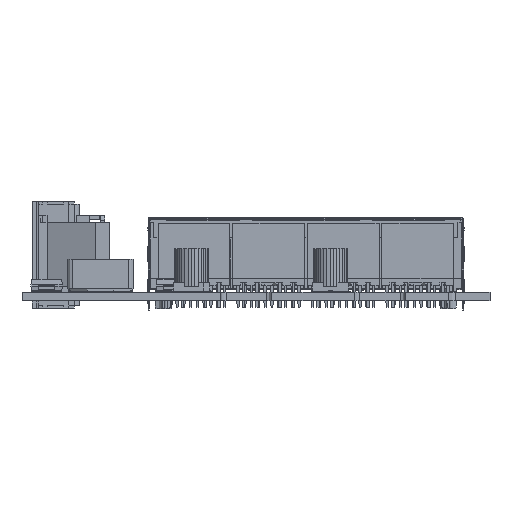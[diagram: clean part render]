
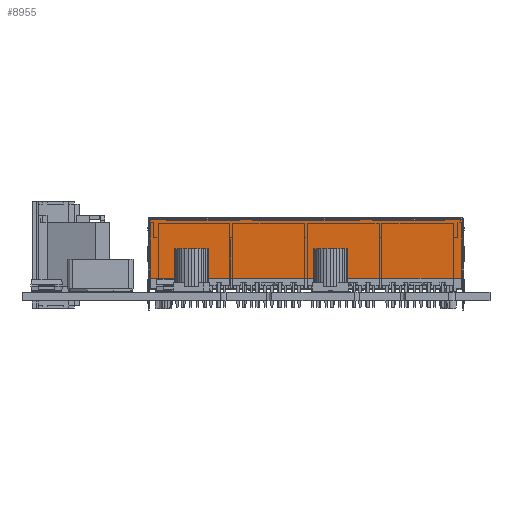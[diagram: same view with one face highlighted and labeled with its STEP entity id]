
A CAD part, front view. The second image highlights one B-rep face of the part: STEP entity #8955.
In plain terms, the highlighted planar face has unit normal (0, -1, 0) as drawn and (0, 0, -1) by its records, which use the part's own axes.
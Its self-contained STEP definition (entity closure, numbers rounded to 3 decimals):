
#8955=ADVANCED_FACE('',(#21985),#21986,.F.);
#21985=FACE_OUTER_BOUND('',#39249,.T.);
#21986=PLANE('',#39250);
#39249=EDGE_LOOP('',(#71189,#71190,#71191,#71192,#71193,#71194,#71195,#71196,#71197,#71198,#71199,#71200,#71201,#71202,#71203,#71204,#71205,#71206,#71207,#71208));
#39250=AXIS2_PLACEMENT_3D('',#71209,#71210,#71211);
#71189=ORIENTED_EDGE('',*,*,#116701,.T.);
#71190=ORIENTED_EDGE('',*,*,#116670,.T.);
#71191=ORIENTED_EDGE('',*,*,#116703,.T.);
#71192=ORIENTED_EDGE('',*,*,#116704,.T.);
#71193=ORIENTED_EDGE('',*,*,#116705,.F.);
#71194=ORIENTED_EDGE('',*,*,#116706,.T.);
#71195=ORIENTED_EDGE('',*,*,#116707,.T.);
#71196=ORIENTED_EDGE('',*,*,#116708,.T.);
#71197=ORIENTED_EDGE('',*,*,#116709,.F.);
#71198=ORIENTED_EDGE('',*,*,#116710,.T.);
#71199=ORIENTED_EDGE('',*,*,#116711,.T.);
#71200=ORIENTED_EDGE('',*,*,#116712,.T.);
#71201=ORIENTED_EDGE('',*,*,#116713,.F.);
#71202=ORIENTED_EDGE('',*,*,#116714,.T.);
#71203=ORIENTED_EDGE('',*,*,#116715,.T.);
#71204=ORIENTED_EDGE('',*,*,#116716,.T.);
#71205=ORIENTED_EDGE('',*,*,#116717,.F.);
#71206=ORIENTED_EDGE('',*,*,#116718,.T.);
#71207=ORIENTED_EDGE('',*,*,#116719,.T.);
#71208=ORIENTED_EDGE('',*,*,#116655,.T.);
#71209=CARTESIAN_POINT('',(0.0,0.875,-12.675));
#71210=DIRECTION('',(0.0,0.0,1.0));
#71211=DIRECTION('',(1.0,-0.0,0.0));
#116655=EDGE_CURVE('',#141800,#141798,#141801,.T.);
#116670=EDGE_CURVE('',#141826,#141824,#141827,.T.);
#116701=EDGE_CURVE('',#141798,#141826,#141874,.T.);
#116703=EDGE_CURVE('',#141824,#141876,#141877,.T.);
#116704=EDGE_CURVE('',#141876,#141878,#141879,.T.);
#116705=EDGE_CURVE('',#141880,#141878,#141881,.T.);
#116706=EDGE_CURVE('',#141880,#141882,#141883,.T.);
#116707=EDGE_CURVE('',#141882,#141884,#141885,.T.);
#116708=EDGE_CURVE('',#141884,#141886,#141887,.T.);
#116709=EDGE_CURVE('',#141888,#141886,#141889,.T.);
#116710=EDGE_CURVE('',#141888,#141890,#141891,.T.);
#116711=EDGE_CURVE('',#141890,#141892,#141893,.T.);
#116712=EDGE_CURVE('',#141892,#141894,#141895,.T.);
#116713=EDGE_CURVE('',#141896,#141894,#141897,.T.);
#116714=EDGE_CURVE('',#141896,#141898,#141899,.T.);
#116715=EDGE_CURVE('',#141898,#141900,#141901,.T.);
#116716=EDGE_CURVE('',#141900,#141902,#141903,.T.);
#116717=EDGE_CURVE('',#141904,#141902,#141905,.T.);
#116718=EDGE_CURVE('',#141904,#141906,#141907,.T.);
#116719=EDGE_CURVE('',#141906,#141800,#141908,.T.);
#141798=VERTEX_POINT('',#178468);
#141800=VERTEX_POINT('',#178470);
#141801=LINE('',#178471,#178472);
#141824=VERTEX_POINT('',#178502);
#141826=VERTEX_POINT('',#178505);
#141827=LINE('',#178506,#178507);
#141874=LINE('',#178567,#178568);
#141876=VERTEX_POINT('',#178570);
#141877=LINE('',#178571,#178572);
#141878=VERTEX_POINT('',#178573);
#141879=LINE('',#178574,#178575);
#141880=VERTEX_POINT('',#178576);
#141881=LINE('',#178577,#178578);
#141882=VERTEX_POINT('',#178579);
#141883=LINE('',#178580,#178581);
#141884=VERTEX_POINT('',#178582);
#141885=LINE('',#178583,#178584);
#141886=VERTEX_POINT('',#178585);
#141887=LINE('',#178586,#178587);
#141888=VERTEX_POINT('',#178588);
#141889=LINE('',#178589,#178590);
#141890=VERTEX_POINT('',#178591);
#141891=LINE('',#178592,#178593);
#141892=VERTEX_POINT('',#178594);
#141893=LINE('',#178595,#178596);
#141894=VERTEX_POINT('',#178597);
#141895=LINE('',#178598,#178599);
#141896=VERTEX_POINT('',#178600);
#141897=LINE('',#178601,#178602);
#141898=VERTEX_POINT('',#178603);
#141899=LINE('',#178604,#178605);
#141900=VERTEX_POINT('',#178606);
#141901=LINE('',#178607,#178608);
#141902=VERTEX_POINT('',#178609);
#141903=LINE('',#178610,#178611);
#141904=VERTEX_POINT('',#178612);
#141905=LINE('',#178613,#178614);
#141906=VERTEX_POINT('',#178615);
#141907=LINE('',#178616,#178617);
#141908=LINE('',#178618,#178619);
#178468=CARTESIAN_POINT('',(-29.265,-4.65,-12.675));
#178470=CARTESIAN_POINT('',(29.265,-4.65,-12.675));
#178471=CARTESIAN_POINT('',(29.265,-4.65,-12.675));
#178472=VECTOR('',#217272,58.53);
#178502=CARTESIAN_POINT('',(-29.065,6.2,-12.675));
#178505=CARTESIAN_POINT('',(-29.265,6.2,-12.675));
#178506=CARTESIAN_POINT('',(-29.265,6.2,-12.675));
#178507=VECTOR('',#217293,0.2);
#178567=CARTESIAN_POINT('',(-29.265,-4.65,-12.675));
#178568=VECTOR('',#217337,10.85);
#178570=CARTESIAN_POINT('',(-29.065,6.4,-12.675));
#178571=CARTESIAN_POINT('',(-29.065,6.2,-12.675));
#178572=VECTOR('',#217338,0.2);
#178573=CARTESIAN_POINT('',(-26.065,6.4,-12.675));
#178574=CARTESIAN_POINT('',(-29.065,6.4,-12.675));
#178575=VECTOR('',#217339,3.0);
#178576=CARTESIAN_POINT('',(-26.065,6.2,-12.675));
#178577=CARTESIAN_POINT('',(-26.065,6.2,-12.675));
#178578=VECTOR('',#217340,0.2);
#178579=CARTESIAN_POINT('',(-12.5,6.2,-12.675));
#178580=CARTESIAN_POINT('',(-26.065,6.2,-12.675));
#178581=VECTOR('',#217341,13.565);
#178582=CARTESIAN_POINT('',(-12.5,6.4,-12.675));
#178583=CARTESIAN_POINT('',(-12.5,6.2,-12.675));
#178584=VECTOR('',#217342,0.2);
#178585=CARTESIAN_POINT('',(-10.0,6.4,-12.675));
#178586=CARTESIAN_POINT('',(-12.5,6.4,-12.675));
#178587=VECTOR('',#217343,2.5);
#178588=CARTESIAN_POINT('',(-10.0,6.2,-12.675));
#178589=CARTESIAN_POINT('',(-10.0,6.2,-12.675));
#178590=VECTOR('',#217344,0.2);
#178591=CARTESIAN_POINT('',(10.0,6.2,-12.675));
#178592=CARTESIAN_POINT('',(-10.0,6.2,-12.675));
#178593=VECTOR('',#217345,20.0);
#178594=CARTESIAN_POINT('',(10.0,6.4,-12.675));
#178595=CARTESIAN_POINT('',(10.0,6.2,-12.675));
#178596=VECTOR('',#217346,0.2);
#178597=CARTESIAN_POINT('',(12.5,6.4,-12.675));
#178598=CARTESIAN_POINT('',(10.0,6.4,-12.675));
#178599=VECTOR('',#217347,2.5);
#178600=CARTESIAN_POINT('',(12.5,6.2,-12.675));
#178601=CARTESIAN_POINT('',(12.5,6.2,-12.675));
#178602=VECTOR('',#217348,0.2);
#178603=CARTESIAN_POINT('',(26.065,6.2,-12.675));
#178604=CARTESIAN_POINT('',(12.5,6.2,-12.675));
#178605=VECTOR('',#217349,13.565);
#178606=CARTESIAN_POINT('',(26.065,6.4,-12.675));
#178607=CARTESIAN_POINT('',(26.065,6.2,-12.675));
#178608=VECTOR('',#217350,0.2);
#178609=CARTESIAN_POINT('',(29.065,6.4,-12.675));
#178610=CARTESIAN_POINT('',(26.065,6.4,-12.675));
#178611=VECTOR('',#217351,3.0);
#178612=CARTESIAN_POINT('',(29.065,6.2,-12.675));
#178613=CARTESIAN_POINT('',(29.065,6.2,-12.675));
#178614=VECTOR('',#217352,0.2);
#178615=CARTESIAN_POINT('',(29.265,6.2,-12.675));
#178616=CARTESIAN_POINT('',(29.065,6.2,-12.675));
#178617=VECTOR('',#217353,0.2);
#178618=CARTESIAN_POINT('',(29.265,6.2,-12.675));
#178619=VECTOR('',#217354,10.85);
#217272=DIRECTION('',(-1.0,0.0,0.0));
#217293=DIRECTION('',(1.0,0.0,0.0));
#217337=DIRECTION('',(0.0,1.0,0.0));
#217338=DIRECTION('',(0.0,1.0,0.0));
#217339=DIRECTION('',(1.0,0.0,0.0));
#217340=DIRECTION('',(0.,1.0,0.0));
#217341=DIRECTION('',(1.0,0.0,0.0));
#217342=DIRECTION('',(0.0,1.0,0.0));
#217343=DIRECTION('',(1.0,0.0,0.0));
#217344=DIRECTION('',(0.0,1.0,0.0));
#217345=DIRECTION('',(1.0,0.0,0.0));
#217346=DIRECTION('',(0.0,1.0,0.));
#217347=DIRECTION('',(1.0,0.0,0.0));
#217348=DIRECTION('',(0.0,1.0,0.0));
#217349=DIRECTION('',(1.0,0.0,0.0));
#217350=DIRECTION('',(0.0,1.0,0.0));
#217351=DIRECTION('',(1.0,0.0,0.0));
#217352=DIRECTION('',(0.0,1.0,0.0));
#217353=DIRECTION('',(1.0,0.0,0.));
#217354=DIRECTION('',(0.0,-1.0,0.0));
